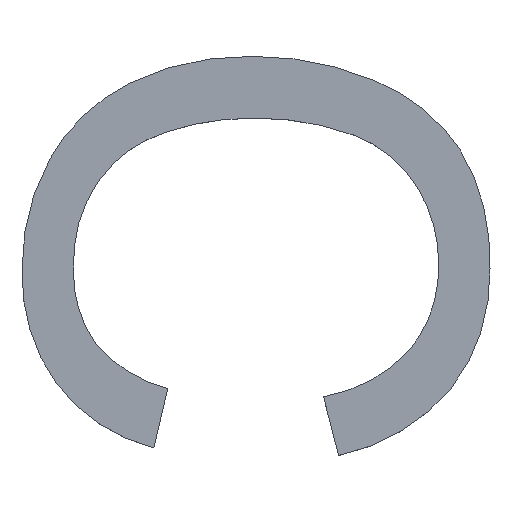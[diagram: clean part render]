
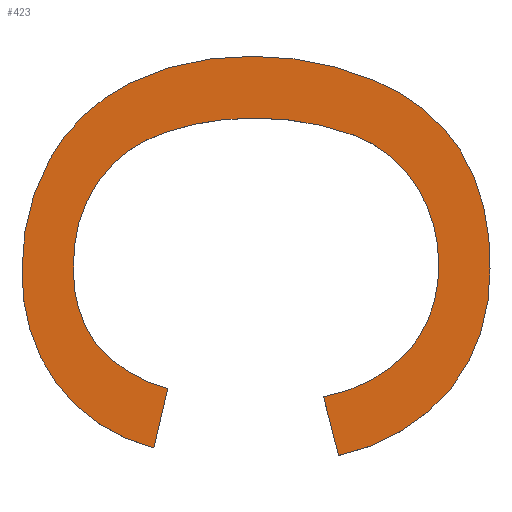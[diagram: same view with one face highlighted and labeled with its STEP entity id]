
A CAD part, top view. The second image highlights one B-rep face of the part: STEP entity #423.
In plain terms, the highlighted planar face has unit normal (0, 0, 1).
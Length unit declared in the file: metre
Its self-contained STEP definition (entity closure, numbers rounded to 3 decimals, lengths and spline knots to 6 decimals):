
#13=CIRCLE('',#433,0.000309);
#15=CIRCLE('',#436,0.000266);
#17=CIRCLE('',#439,0.000304);
#19=CIRCLE('',#442,0.000259);
#21=CIRCLE('',#445,0.000573);
#23=CIRCLE('',#448,0.00056);
#25=CIRCLE('',#451,0.000272);
#27=CIRCLE('',#454,0.000302);
#29=CIRCLE('',#457,0.000251);
#31=CIRCLE('',#460,0.000292);
#33=CIRCLE('',#464,0.000371);
#35=CIRCLE('',#467,0.000383);
#37=CIRCLE('',#470,0.000463);
#39=CIRCLE('',#473,0.000382);
#41=CIRCLE('',#476,0.000553);
#43=CIRCLE('',#479,0.000637);
#45=CIRCLE('',#482,0.000385);
#47=CIRCLE('',#485,0.000448);
#49=CIRCLE('',#488,0.000385);
#51=CIRCLE('',#491,0.000418);
#177=ORIENTED_EDGE('',*,*,#286,.T.);
#178=ORIENTED_EDGE('',*,*,#284,.T.);
#179=ORIENTED_EDGE('',*,*,#281,.T.);
#180=ORIENTED_EDGE('',*,*,#278,.T.);
#181=ORIENTED_EDGE('',*,*,#275,.T.);
#182=ORIENTED_EDGE('',*,*,#272,.T.);
#183=ORIENTED_EDGE('',*,*,#269,.T.);
#184=ORIENTED_EDGE('',*,*,#266,.T.);
#185=ORIENTED_EDGE('',*,*,#263,.T.);
#186=ORIENTED_EDGE('',*,*,#260,.T.);
#187=ORIENTED_EDGE('',*,*,#257,.T.);
#188=ORIENTED_EDGE('',*,*,#254,.T.);
#189=ORIENTED_EDGE('',*,*,#251,.T.);
#190=ORIENTED_EDGE('',*,*,#248,.T.);
#191=ORIENTED_EDGE('',*,*,#245,.T.);
#192=ORIENTED_EDGE('',*,*,#242,.T.);
#193=ORIENTED_EDGE('',*,*,#239,.T.);
#194=ORIENTED_EDGE('',*,*,#236,.T.);
#195=ORIENTED_EDGE('',*,*,#233,.T.);
#196=ORIENTED_EDGE('',*,*,#230,.T.);
#197=ORIENTED_EDGE('',*,*,#227,.T.);
#198=ORIENTED_EDGE('',*,*,#224,.T.);
#224=EDGE_CURVE('',#287,#290,#334,.T.);
#227=EDGE_CURVE('',#291,#287,#13,.T.);
#230=EDGE_CURVE('',#293,#291,#15,.T.);
#233=EDGE_CURVE('',#295,#293,#17,.T.);
#236=EDGE_CURVE('',#297,#295,#19,.T.);
#239=EDGE_CURVE('',#299,#297,#21,.T.);
#242=EDGE_CURVE('',#301,#299,#23,.T.);
#245=EDGE_CURVE('',#303,#301,#25,.T.);
#248=EDGE_CURVE('',#305,#303,#27,.T.);
#251=EDGE_CURVE('',#307,#305,#29,.T.);
#254=EDGE_CURVE('',#309,#307,#31,.T.);
#257=EDGE_CURVE('',#311,#309,#339,.T.);
#260=EDGE_CURVE('',#313,#311,#33,.F.);
#263=EDGE_CURVE('',#315,#313,#35,.F.);
#266=EDGE_CURVE('',#317,#315,#37,.F.);
#269=EDGE_CURVE('',#319,#317,#39,.F.);
#272=EDGE_CURVE('',#321,#319,#41,.F.);
#275=EDGE_CURVE('',#323,#321,#43,.F.);
#278=EDGE_CURVE('',#325,#323,#45,.F.);
#281=EDGE_CURVE('',#327,#325,#47,.F.);
#284=EDGE_CURVE('',#329,#327,#49,.F.);
#286=EDGE_CURVE('',#290,#329,#51,.F.);
#287=VERTEX_POINT('',#636);
#290=VERTEX_POINT('',#641);
#291=VERTEX_POINT('',#648);
#293=VERTEX_POINT('',#657);
#295=VERTEX_POINT('',#666);
#297=VERTEX_POINT('',#675);
#299=VERTEX_POINT('',#684);
#301=VERTEX_POINT('',#693);
#303=VERTEX_POINT('',#702);
#305=VERTEX_POINT('',#708);
#307=VERTEX_POINT('',#717);
#309=VERTEX_POINT('',#723);
#311=VERTEX_POINT('',#729);
#313=VERTEX_POINT('',#738);
#315=VERTEX_POINT('',#747);
#317=VERTEX_POINT('',#756);
#319=VERTEX_POINT('',#765);
#321=VERTEX_POINT('',#774);
#323=VERTEX_POINT('',#783);
#325=VERTEX_POINT('',#792);
#327=VERTEX_POINT('',#801);
#329=VERTEX_POINT('',#810);
#334=LINE('',#642,#343);
#339=LINE('',#732,#348);
#343=VECTOR('',#501,1.);
#348=VECTOR('',#568,1.);
#371=EDGE_LOOP('',(#177,#178,#179,#180,#181,#182,#183,#184,#185,#186,#187,
#188,#189,#190,#191,#192,#193,#194,#195,#196,#197,#198));
#395=FACE_BOUND('',#371,.T.);
#399=PLANE('',#492);
#423=ADVANCED_FACE('',(#395),#399,.F.);
#433=AXIS2_PLACEMENT_3D('',#651,#506,#507);
#436=AXIS2_PLACEMENT_3D('',#660,#512,#513);
#439=AXIS2_PLACEMENT_3D('',#669,#518,#519);
#442=AXIS2_PLACEMENT_3D('',#678,#524,#525);
#445=AXIS2_PLACEMENT_3D('',#687,#530,#531);
#448=AXIS2_PLACEMENT_3D('',#696,#536,#537);
#451=AXIS2_PLACEMENT_3D('',#705,#542,#543);
#454=AXIS2_PLACEMENT_3D('',#711,#549,#550);
#457=AXIS2_PLACEMENT_3D('',#720,#555,#556);
#460=AXIS2_PLACEMENT_3D('',#726,#562,#563);
#464=AXIS2_PLACEMENT_3D('',#741,#573,#574);
#467=AXIS2_PLACEMENT_3D('',#750,#579,#580);
#470=AXIS2_PLACEMENT_3D('',#759,#585,#586);
#473=AXIS2_PLACEMENT_3D('',#768,#591,#592);
#476=AXIS2_PLACEMENT_3D('',#777,#597,#598);
#479=AXIS2_PLACEMENT_3D('',#786,#603,#604);
#482=AXIS2_PLACEMENT_3D('',#795,#609,#610);
#485=AXIS2_PLACEMENT_3D('',#804,#615,#616);
#488=AXIS2_PLACEMENT_3D('',#813,#621,#622);
#491=AXIS2_PLACEMENT_3D('',#816,#627,#628);
#492=AXIS2_PLACEMENT_3D('',#817,#629,#630);
#501=DIRECTION('',(0.248,-0.969,0.));
#506=DIRECTION('',(0.,0.,-1.));
#507=DIRECTION('',(1.,0.,0.));
#512=DIRECTION('',(0.,0.,-1.));
#513=DIRECTION('',(1.,0.,0.));
#518=DIRECTION('',(0.,0.,-1.));
#519=DIRECTION('',(1.,0.,0.));
#524=DIRECTION('',(0.,0.,-1.));
#525=DIRECTION('',(1.,0.,0.));
#530=DIRECTION('',(0.,0.,-1.));
#531=DIRECTION('',(1.,0.,0.));
#536=DIRECTION('',(0.,0.,-1.));
#537=DIRECTION('',(1.,0.,0.));
#542=DIRECTION('',(0.,0.,-1.));
#543=DIRECTION('',(1.,0.,0.));
#549=DIRECTION('',(0.,0.,-1.));
#550=DIRECTION('',(1.,0.,0.));
#555=DIRECTION('',(0.,0.,-1.));
#556=DIRECTION('',(1.,0.,0.));
#562=DIRECTION('',(0.,0.,-1.));
#563=DIRECTION('',(1.,0.,0.));
#568=DIRECTION('',(0.229,0.974,0.));
#573=DIRECTION('',(0.,0.,-1.));
#574=DIRECTION('',(1.,0.,0.));
#579=DIRECTION('',(0.,0.,-1.));
#580=DIRECTION('',(1.,0.,0.));
#585=DIRECTION('',(0.,0.,-1.));
#586=DIRECTION('',(1.,0.,0.));
#591=DIRECTION('',(0.,0.,-1.));
#592=DIRECTION('',(1.,0.,0.));
#597=DIRECTION('',(0.,0.,-1.));
#598=DIRECTION('',(1.,0.,0.));
#603=DIRECTION('',(0.,0.,-1.));
#604=DIRECTION('',(1.,0.,0.));
#609=DIRECTION('',(0.,0.,-1.));
#610=DIRECTION('',(1.,0.,0.));
#615=DIRECTION('',(0.,0.,-1.));
#616=DIRECTION('',(1.,0.,0.));
#621=DIRECTION('',(0.,0.,-1.));
#622=DIRECTION('',(1.,0.,0.));
#627=DIRECTION('',(0.,0.,-1.));
#628=DIRECTION('',(1.,0.,0.));
#629=DIRECTION('',(0.,0.,-1.));
#630=DIRECTION('',(0.,-1.,0.));
#636=CARTESIAN_POINT('',(-0.022516,-0.001639,-0.03));
#641=CARTESIAN_POINT('',(-0.022485,-0.00176,-0.03));
#642=CARTESIAN_POINT('',(-0.022516,-0.001639,-0.03));
#648=CARTESIAN_POINT('',(-0.022338,-0.001541,-0.03));
#651=CARTESIAN_POINT('',(-0.022565,-0.001333,-0.03));
#657=CARTESIAN_POINT('',(-0.022278,-0.001365,-0.03));
#660=CARTESIAN_POINT('',(-0.022545,-0.001373,-0.03));
#666=CARTESIAN_POINT('',(-0.022322,-0.001206,-0.03));
#669=CARTESIAN_POINT('',(-0.022582,-0.001363,-0.03));
#675=CARTESIAN_POINT('',(-0.022455,-0.001097,-0.03));
#678=CARTESIAN_POINT('',(-0.022542,-0.001342,-0.03));
#684=CARTESIAN_POINT('',(-0.022664,-0.001063,-0.03));
#687=CARTESIAN_POINT('',(-0.02265,-0.001636,-0.03));
#693=CARTESIAN_POINT('',(-0.022843,-0.001092,-0.03));
#696=CARTESIAN_POINT('',(-0.022665,-0.001623,-0.03));
#702=CARTESIAN_POINT('',(-0.022982,-0.001193,-0.03));
#705=CARTESIAN_POINT('',(-0.02276,-0.001351,-0.03));
#708=CARTESIAN_POINT('',(-0.023033,-0.001372,-0.03));
#711=CARTESIAN_POINT('',(-0.022732,-0.001361,-0.03));
#717=CARTESIAN_POINT('',(-0.022987,-0.001528,-0.03));
#720=CARTESIAN_POINT('',(-0.022782,-0.001384,-0.03));
#723=CARTESIAN_POINT('',(-0.022838,-0.001622,-0.03));
#726=CARTESIAN_POINT('',(-0.022766,-0.001338,-0.03));
#729=CARTESIAN_POINT('',(-0.022867,-0.001744,-0.03));
#732=CARTESIAN_POINT('',(-0.022867,-0.001745,-0.03));
#738=CARTESIAN_POINT('',(-0.023068,-0.001612,-0.03));
#741=CARTESIAN_POINT('',(-0.022775,-0.001385,-0.03));
#747=CARTESIAN_POINT('',(-0.02314,-0.001376,-0.03));
#750=CARTESIAN_POINT('',(-0.022756,-0.00139,-0.03));
#756=CARTESIAN_POINT('',(-0.023083,-0.001149,-0.03));
#759=CARTESIAN_POINT('',(-0.022677,-0.00137,-0.03));
#765=CARTESIAN_POINT('',(-0.022918,-0.000991,-0.03));
#768=CARTESIAN_POINT('',(-0.022749,-0.001333,-0.03));
#774=CARTESIAN_POINT('',(-0.022663,-0.000935,-0.03));
#777=CARTESIAN_POINT('',(-0.022678,-0.001489,-0.03));
#783=CARTESIAN_POINT('',(-0.022412,-0.000984,-0.03));
#786=CARTESIAN_POINT('',(-0.022657,-0.001572,-0.03));
#792=CARTESIAN_POINT('',(-0.022234,-0.001128,-0.03));
#795=CARTESIAN_POINT('',(-0.022553,-0.001343,-0.03));
#801=CARTESIAN_POINT('',(-0.022172,-0.001374,-0.03));
#804=CARTESIAN_POINT('',(-0.02262,-0.001352,-0.03));
#810=CARTESIAN_POINT('',(-0.022252,-0.001621,-0.03));
#813=CARTESIAN_POINT('',(-0.022558,-0.001387,-0.03));
#816=CARTESIAN_POINT('',(-0.02257,-0.001351,-0.03));
#817=CARTESIAN_POINT('',(-0.022653,-0.001323,-0.03));
